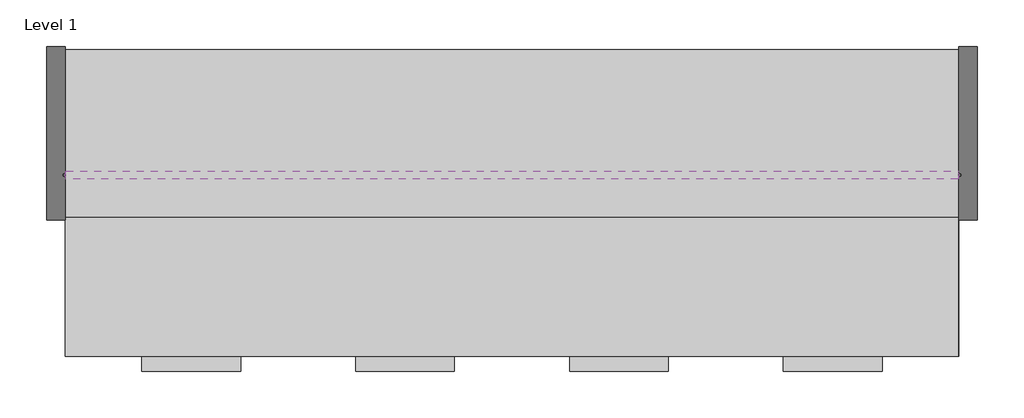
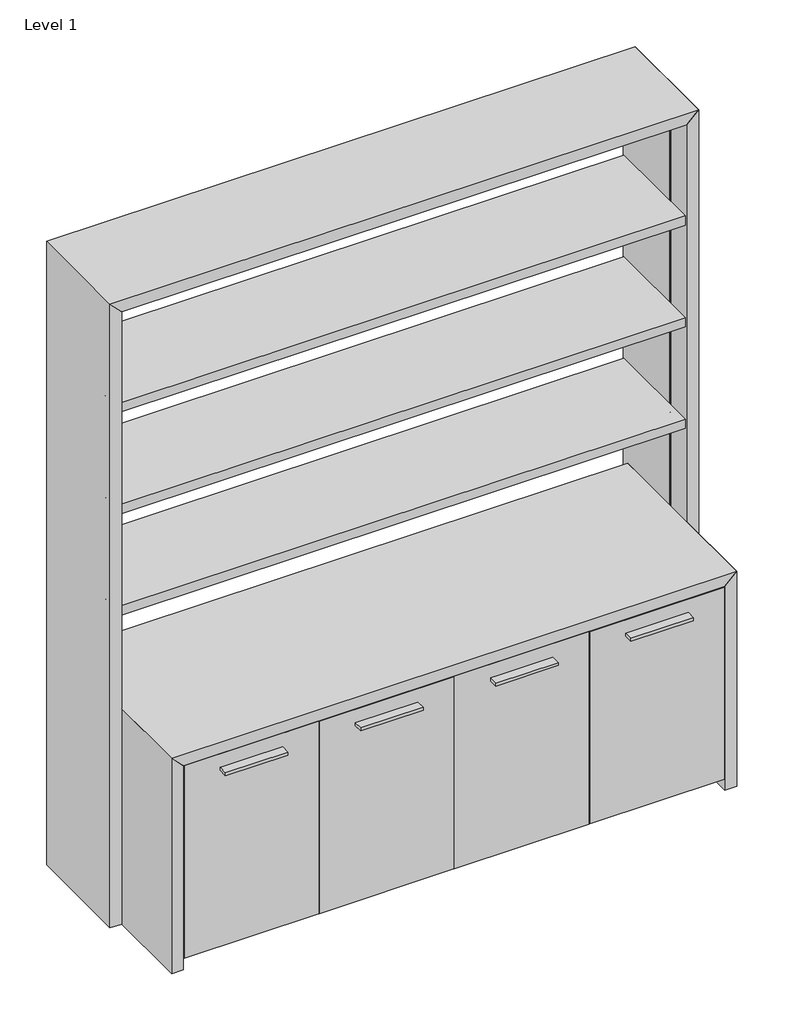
# One storey: 10 proxies.
"""IFC4 building model written with IfcOpenShell, lengths in millimetres."""

from ifc_helpers import new_model, si_unit, origin, place, context, project, spatial, transform, mapped, element, save
from components import generic_models_7e0e9335, generic_models_998bad83, generic_models_9caf6cdd, generic_models_0d1b17e7

model = new_model("IFC4")

# Units and contexts
model_context = context("Model", 3, world=origin())
ifc_project = project(units=[si_unit("LENGTHUNIT", "METRE", prefix="MILLI")], contexts=[model_context])

# Site, building, storey
site = spatial("IfcSite", under=ifc_project)
building = spatial("IfcBuilding", under=site)
storey = spatial("IfcBuildingStorey", under=building, Name="Level 1", Elevation=0.0)

# Proxies
placement = place(None, origin())
generic_models_shape = generic_models_7e0e9335(model_context)
element("IfcBuildingElementProxy", 1, Name="HAFELE^BUS BAR LIGHT_ALUMINUM EXTRUSION-LIGHT BAR (MOD LENGTH 71.875)", ObjectType="HAFELE^BUS BAR LIGHT_ALUMINUM EXTRUSION-LIGHT BAR (MOD LENGTH 71.875)", at=placement, inside=storey, context=model_context, shape_type="MappedRepresentation", body=[
    mapped(generic_models_shape, transform((1865.3125, -272.025, 1400.175), x_axis=(0.0, 1.0, 0.0), y_axis=(-1.0, 0.0, 0.0), z_axis=(0.0, 0.0, 1.0))),
])
element("IfcBuildingElementProxy", 2, Name="HAFELE^BUS BAR LIGHT_ALUMINUM EXTRUSION-LIGHT BAR (MOD LENGTH 71.875)", ObjectType="HAFELE^BUS BAR LIGHT_ALUMINUM EXTRUSION-LIGHT BAR (MOD LENGTH 71.875)", at=placement, inside=storey, context=model_context, shape_type="MappedRepresentation", body=[
    mapped(generic_models_shape, transform((1865.3125, -272.025, 1052.5125), x_axis=(0.0, 1.0, 0.0), y_axis=(-1.0, 0.0, 0.0), z_axis=(0.0, 0.0, 1.0))),
])
element("IfcBuildingElementProxy", 3, Name="HAFELE^BUS BAR LIGHT_ALUMINUM EXTRUSION-LIGHT BAR (MOD LENGTH 71.875)", ObjectType="HAFELE^BUS BAR LIGHT_ALUMINUM EXTRUSION-LIGHT BAR (MOD LENGTH 71.875)", at=placement, inside=storey, context=model_context, shape_type="MappedRepresentation", body=[
    mapped(generic_models_shape, transform((1865.3125, -272.025, 1747.8375), x_axis=(0.0, 1.0, 0.0), y_axis=(-1.0, 0.0, 0.0), z_axis=(0.0, 0.0, 1.0))),
])
generic_models_2_shape = generic_models_998bad83(model_context)
element("IfcBuildingElementProxy", 4, Name="HAFELE^BUS BAR_ALUMINUM-BUS BAR (MOD LENGTH 60.4375)", ObjectType="HAFELE^BUS BAR_ALUMINUM-BUS BAR (MOD LENGTH 60.4375)", at=placement, inside=storey, context=model_context, shape_type="MappedRepresentation", body=[
    mapped(generic_models_2_shape, transform((1866.9, -266.7, 560.3875), x_axis=(0.0, 1.0, 0.0), y_axis=(0.0, 0.0, 1.0), z_axis=(1.0, 0.0, 0.0))),
])
element("IfcBuildingElementProxy", 5, Name="HAFELE^BUS BAR_ALUMINUM-BUS BAR (MOD LENGTH 60.4375)", ObjectType="HAFELE^BUS BAR_ALUMINUM-BUS BAR (MOD LENGTH 60.4375)", at=placement, inside=storey, context=model_context, shape_type="MappedRepresentation", body=[
    mapped(generic_models_2_shape, transform((38.1, -260.35, 560.3875), x_axis=(0.0, -1.0, 0.0), y_axis=(0.0, 0.0, 1.0), z_axis=(-1.0, 0.0, 0.0))),
])
generic_models_3_shape = generic_models_9caf6cdd(model_context)
element("IfcBuildingElementProxy", 6, Name="SCHWINN-BAR PULL 2334.192", ObjectType="SCHWINN-BAR PULL 2334.192", at=placement, inside=storey, context=model_context, shape_type="MappedRepresentation", body=[
    mapped(generic_models_3_shape, transform((1464.9695313, -609.6, 640.31875), x_axis=(1.0, 0.0, 0.0), y_axis=(0.0, 0.0, 1.0), z_axis=(0.0, -1.0, 0.0))),
])
element("IfcBuildingElementProxy", 7, Name="SCHWINN-BAR PULL 2334.192", ObjectType="SCHWINN-BAR PULL 2334.192", at=placement, inside=storey, context=model_context, shape_type="MappedRepresentation", body=[
    mapped(generic_models_3_shape, transform((1027.4148438, -609.6, 640.31875), x_axis=(1.0, 0.0, 0.0), y_axis=(0.0, 0.0, 1.0), z_axis=(0.0, -1.0, 0.0))),
])
element("IfcBuildingElementProxy", 8, Name="SCHWINN-BAR PULL 2334.192", ObjectType="SCHWINN-BAR PULL 2334.192", at=placement, inside=storey, context=model_context, shape_type="MappedRepresentation", body=[
    mapped(generic_models_3_shape, transform((152.3054688, -609.6, 640.31875), x_axis=(1.0, 0.0, 0.0), y_axis=(0.0, 0.0, 1.0), z_axis=(0.0, -1.0, 0.0))),
])
element("IfcBuildingElementProxy", 9, Name="SCHWINN-BAR PULL 2334.192", ObjectType="SCHWINN-BAR PULL 2334.192", at=placement, inside=storey, context=model_context, shape_type="MappedRepresentation", body=[
    mapped(generic_models_3_shape, transform((589.8601563, -609.6, 640.31875), x_axis=(1.0, 0.0, 0.0), y_axis=(0.0, 0.0, 1.0), z_axis=(0.0, -1.0, 0.0))),
])
generic_models_4_shape = generic_models_0d1b17e7(model_context)
element("IfcBuildingElementProxy", 10, Name="FOUNDATION^LOW CREDENZA UPPER SHELVES_25x84 4 DOOR-PARTS SOLID", ObjectType="FOUNDATION^LOW CREDENZA UPPER SHELVES_25x84 4 DOOR-PARTS SOLID", at=placement, inside=storey, context=model_context, shape_type="MappedRepresentation", body=[
    mapped(generic_models_4_shape, transform((0.0, 0.0, 0.0), x_axis=(1.0, 0.0, 0.0), y_axis=(0.0, 0.0, 1.0), z_axis=(0.0, -1.0, 0.0))),
])

save(model, "model.ifc")
